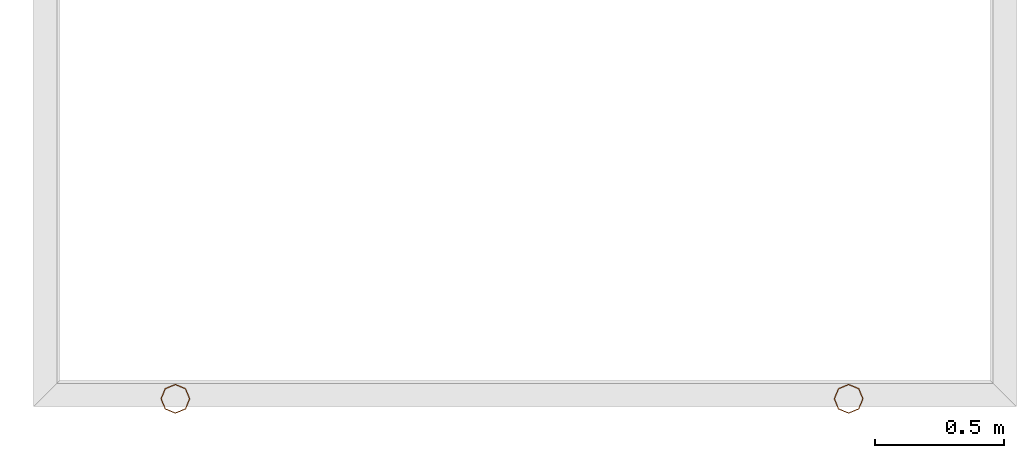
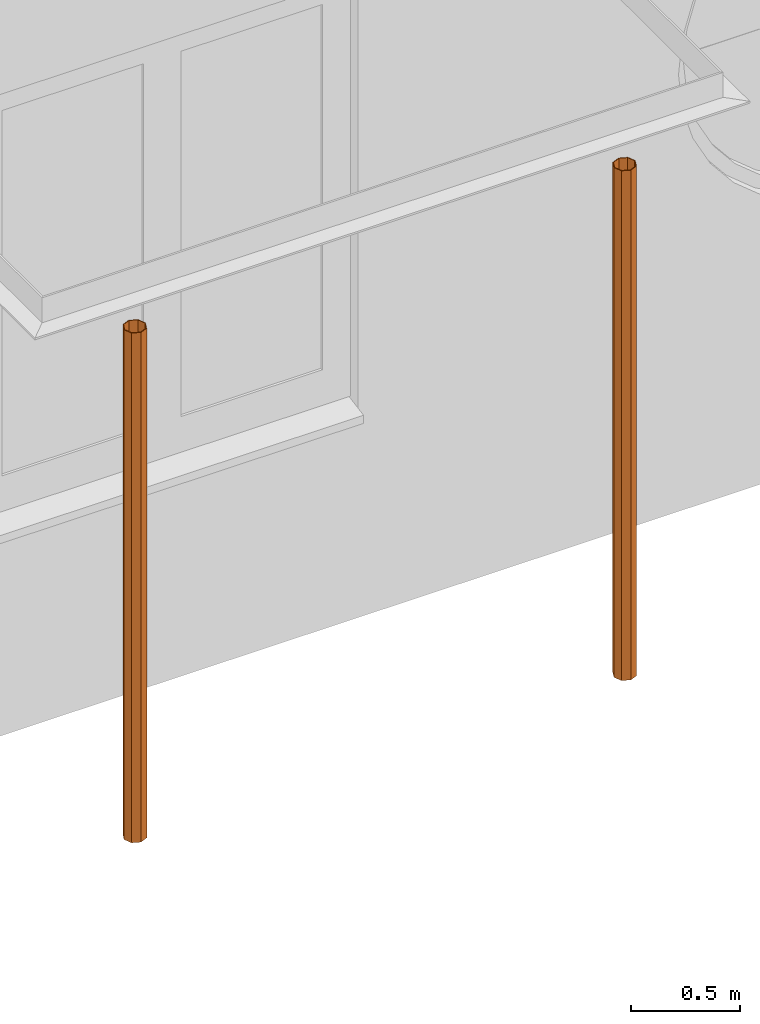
# One storey, part 120 of 135: 2 proxies.
"""IFC2X3 building model written with IfcOpenShell, lengths in millimetres."""

from ifc_helpers import new_model, entity, si_unit, converted_unit, derived_unit, money_unit, direction, frame, origin_with_axes, place, context, subcontext, project, spatial, faceted_brep, source, transform, mapped, material, type_object, type_shapes, element, save


model = new_model("IFC2X3")

# Units and contexts
model_context = context("Model", 3, precision=0.01, world=origin_with_axes(), true_north=direction((0.0, 1.0)))
body_context = subcontext(model_context, "Body", "Model", "MODEL_VIEW")
ifc_project = project(units=[si_unit("LENGTHUNIT", "METRE", prefix="MILLI"), si_unit("AREAUNIT", "SQUARE_METRE"), si_unit("VOLUMEUNIT", "CUBIC_METRE"), converted_unit("PLANEANGLEUNIT", "DEGREE", entity("IfcPlaneAngleMeasure", 0.0174532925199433), si_unit("PLANEANGLEUNIT", "RADIAN"), dimensions=[0, 0, 0, 0, 0, 0, 0]), money_unit("EUR"), converted_unit("TIMEUNIT", "Year", entity("IfcTimeMeasure", 31557600.0), si_unit("TIMEUNIT", "SECOND"), dimensions=[0, 0, 1, 0, 0, 0, 0]), si_unit("MASSUNIT", "GRAM", prefix="KILO"), si_unit("THERMODYNAMICTEMPERATUREUNIT", "DEGREE_CELSIUS"), si_unit("LUMINOUSINTENSITYUNIT", "LUMEN"), si_unit("ENERGYUNIT", "JOULE", prefix="MEGA"), derived_unit("THERMALCONDUCTANCEUNIT", [(si_unit("POWERUNIT", "WATT"), 1), (si_unit("LENGTHUNIT", "METRE"), -1), (si_unit("THERMODYNAMICTEMPERATUREUNIT", "KELVIN"), -1)]), derived_unit("SPECIFICHEATCAPACITYUNIT", [(si_unit("ENERGYUNIT", "JOULE"), 1), (si_unit("MASSUNIT", "GRAM", prefix="KILO"), -1), (si_unit("THERMODYNAMICTEMPERATUREUNIT", "KELVIN"), -1)]), derived_unit("MASSDENSITYUNIT", [(si_unit("MASSUNIT", "GRAM", prefix="KILO"), 1), (si_unit("VOLUMEUNIT", "CUBIC_METRE"), -1)])], contexts=[model_context])

# Site, building, storey
site_placement = place(None, origin_with_axes())
site = spatial("IfcSite", under=ifc_project, at=site_placement, Name="Site", CompositionType="ELEMENT")
building_placement = place(site_placement, origin_with_axes())
building = spatial("IfcBuilding", under=site, at=building_placement, Name="Naam gebouw", CompositionType="ELEMENT")
storey_placement = place(building_placement, origin_with_axes())
storey = spatial("IfcBuildingStorey", under=building, at=storey_placement, Name="Begane grond N", CompositionType="ELEMENT", Elevation=0.0)

# Proxies
ifc_material = material(Name="Metaal - Staal AFW")
building_element_proxy_type = type_object("IfcBuildingElementProxyType", Name="Buis ro koudgev kolom 27", PredefinedType="NOTDEFINED")
shared_shape = source(origin_with_axes(), body_context, "Body", "Brep", [
    faceted_brep([(-57.15, 0.0, 0.0), (-57.15, 0.0, 2860.0), (-40.41115254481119, 40.41115254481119, 2860.0), (-40.41115254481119, 40.41115254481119, 0.0), (-40.4111525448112, -40.4111525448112, 0.0), (-40.4111525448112, -40.4111525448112, 2860.0), (0.0, -57.15000000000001, 2860.0), (40.4111525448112, -40.4111525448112, 2860.0), (57.15000000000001, 0.0, 2860.0), (40.4111525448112, 40.4111525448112, 2860.0), (0.0, 57.15000000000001, 2860.0), (-53.15000000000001, 0.0, 2860.0), (-37.58272542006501, 37.58272542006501, 2860.0), (0.0, 53.15000000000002, 2860.0), (37.58272542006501, 37.58272542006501, 2860.0), (53.15000000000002, 0.0, 2860.0), (37.58272542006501, -37.58272542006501, 2860.0), (0.0, -53.15000000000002, 2860.0), (-37.58272542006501, -37.58272542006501, 2860.0), (0.0, 57.15000000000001, 0.0), (40.4111525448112, 40.4111525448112, 0.0), (57.15000000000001, 0.0, 0.0), (40.4111525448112, -40.4111525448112, 0.0), (0.0, -57.15000000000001, 0.0), (-53.15000000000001, 0.0, 0.0), (-37.58272542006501, -37.58272542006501, 0.0), (0.0, -53.15000000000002, 0.0), (37.58272542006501, -37.58272542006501, 0.0), (53.15000000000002, 0.0, 0.0), (37.58272542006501, 37.58272542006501, 0.0), (0.0, 53.15000000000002, 0.0), (-37.58272542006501, 37.58272542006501, 0.0)], [[[0, 1, 2, 3]], [[4, 5, 1, 0]], [[1, 5, 6, 7, 8, 9, 10, 2], [11, 12, 13, 14, 15, 16, 17, 18]], [[3, 2, 10, 19]], [[0, 3, 19, 20, 21, 22, 23, 4], [24, 25, 26, 27, 28, 29, 30, 31]], [[23, 6, 5, 4]], [[22, 7, 6, 23]], [[21, 8, 7, 22]], [[20, 9, 8, 21]], [[19, 10, 9, 20]], [[31, 12, 11, 24]], [[30, 13, 12, 31]], [[29, 14, 13, 30]], [[28, 15, 14, 29]], [[27, 16, 15, 28]], [[26, 17, 16, 27]], [[25, 18, 17, 26]], [[24, 11, 18, 25]]]),
])
type_shapes(building_element_proxy_type, [shared_shape])
for number, where, z_axis, x_axis, name in (
    (1, (7649.999997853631, 1185.668707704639, -449.9999999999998), (0.0, 0.0, 1.0), (0.0, -1.0, 0.0), "_Boom-x"),
    (2, (10249.99999785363, 1185.668707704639, -449.9999999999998), (0.0, 0.0, 1.0), (0.0, -1.0, 0.0), "_Boom-x"),
):
    element("IfcBuildingElementProxy", number, at=place(storey_placement, frame(where, z_axis=z_axis, x_axis=x_axis)), inside=storey, type_object=building_element_proxy_type, material=ifc_material, Name=name, context=body_context, shape_type="MappedRepresentation", body=[
        mapped(shared_shape, transform((0.0, 0.0, 0.0))),
    ])

save(model, "model.ifc")
